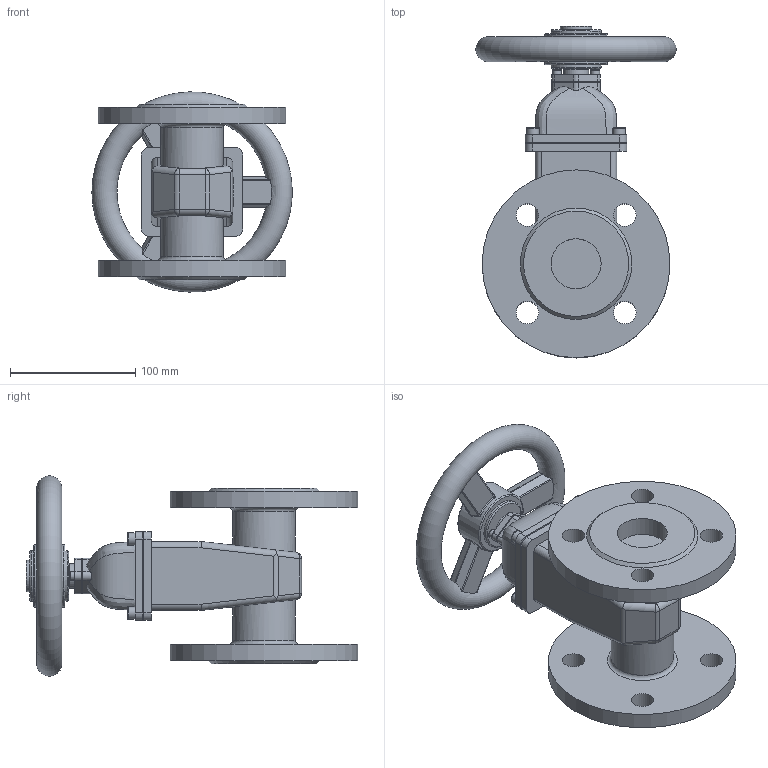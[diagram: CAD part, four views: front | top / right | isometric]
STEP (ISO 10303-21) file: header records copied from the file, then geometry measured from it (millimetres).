
FILE_DESCRIPTION(('STEP AP242'), '1');
FILE_NAME('GVWN1414N-2W-F-S blue Çàäâèæêà êëèíîâàÿ ñ íåâèäâèæíûì øòîêîì DN.ru Äó40 Ðó10-16', '', ('UNSPECIFIED'), ('UNSPECIFIED'), 'C3D Converter', 'C3D Toolkit', '');
FILE_SCHEMA(('AP242_MANAGED_MODEL_BASED_3D_ENGINEERING_MIM_LF { 1 0 10303 442 1 1 4 }'));
Length unit declared in the file: millimetre
Products named in the file (1): GVWN1414N-2W-F-S blue
Bounding box: 159.9 x 265 x 159.9 mm (x, y, z)
Volume: 1333967.8 mm3; surface area: 186578.5 mm2
Topology: 1 solids, 1 shells, 335 faces, 853 edges, 543 vertices
Faces by surface type: plane 148, cylinder 87, bspline 38, extrusion 27, torus 19, sphere 8, cone 8
Full cylindrical faces by diameter (mm): 4 x2, 6 x4, 7 x2, 10 x4, 16 x1, 18 x8, 20 x2, 25 x1, 40 x4, 50 x3, 150 x2
Entity records: 18532 total; most frequent: CARTESIAN_POINT 10377, ORIENTED_EDGE 1562, DIRECTION 1264, EDGE_CURVE 781, VERTEX_POINT 534, EDGE_LOOP 453, AXIS2_PLACEMENT_3D 443, VECTOR 378
